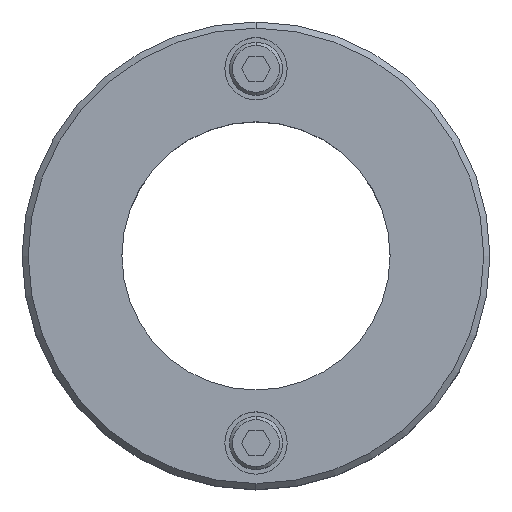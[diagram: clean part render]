
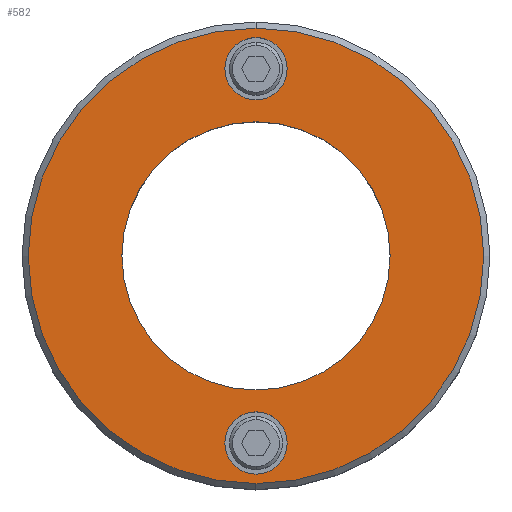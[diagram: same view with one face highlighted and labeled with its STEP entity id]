
A CAD part, top view. The second image highlights one B-rep face of the part: STEP entity #582.
In plain terms, the highlighted planar face has unit normal (0, 0, 1).
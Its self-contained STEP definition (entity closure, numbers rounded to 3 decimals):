
#105=VERTEX_POINT(' ',#106);
#106=CARTESIAN_POINT('',(0.,21.5,20.));
#107=VERTEX_POINT(' ',#108);
#108=CARTESIAN_POINT('',(0.,-21.5,20.));
#117=VERTEX_POINT(' ',#118);
#118=CARTESIAN_POINT('',(0.,35.,20.));
#119=VERTEX_POINT(' ',#120);
#120=CARTESIAN_POINT('',(0.,25.,20.));
#125=VERTEX_POINT(' ',#126);
#126=CARTESIAN_POINT('',(0.,-25.,20.));
#127=VERTEX_POINT(' ',#128);
#128=CARTESIAN_POINT('',(0.,-35.,20.));
#137=VERTEX_POINT(' ',#138);
#138=CARTESIAN_POINT('',(0.,-36.51,20.));
#139=VERTEX_POINT(' ',#140);
#140=CARTESIAN_POINT('',(0.,36.51,20.));
#199=CIRCLE('',#200,21.5);
#200=AXIS2_PLACEMENT_3D('',#201,#202,#203);
#201=CARTESIAN_POINT('',(0.,0.,20.));
#202=DIRECTION('',(0.,0.,-1.));
#203=DIRECTION('',(-1.,0.,0.));
#204=EDGE_CURVE(' ',#105,#107,#199,.T.);
#205=CIRCLE('',#206,21.5);
#206=AXIS2_PLACEMENT_3D('',#207,#208,#209);
#207=CARTESIAN_POINT('',(0.,0.,20.));
#208=DIRECTION('',(0.,0.,-1.));
#209=DIRECTION('',(1.,0.,0.));
#210=EDGE_CURVE(' ',#107,#105,#205,.T.);
#255=CIRCLE('',#256,5.);
#256=AXIS2_PLACEMENT_3D('',#257,#258,#259);
#257=CARTESIAN_POINT('',(0.,30.,20.));
#258=DIRECTION('',(0.,0.,1.));
#259=DIRECTION('',(1.,0.,0.));
#260=EDGE_CURVE(' ',#117,#119,#255,.T.);
#277=CIRCLE('',#278,5.);
#278=AXIS2_PLACEMENT_3D('',#279,#280,#281);
#279=CARTESIAN_POINT('',(0.,30.,20.));
#280=DIRECTION('',(0.,0.,1.));
#281=DIRECTION('',(-1.,0.,0.));
#282=EDGE_CURVE(' ',#119,#117,#277,.T.);
#289=CIRCLE('',#290,5.);
#290=AXIS2_PLACEMENT_3D('',#291,#292,#293);
#291=CARTESIAN_POINT('',(0.,-30.,20.));
#292=DIRECTION('',(0.,0.,1.));
#293=DIRECTION('',(1.,0.,0.));
#294=EDGE_CURVE(' ',#125,#127,#289,.T.);
#311=CIRCLE('',#312,5.);
#312=AXIS2_PLACEMENT_3D('',#313,#314,#315);
#313=CARTESIAN_POINT('',(0.,-30.,20.));
#314=DIRECTION('',(0.,0.,1.));
#315=DIRECTION('',(-1.,0.,0.));
#316=EDGE_CURVE(' ',#127,#125,#311,.T.);
#345=CIRCLE('',#346,36.51);
#346=AXIS2_PLACEMENT_3D('',#347,#348,#349);
#347=CARTESIAN_POINT('',(0.,0.,20.));
#348=DIRECTION('',(0.,0.,1.));
#349=DIRECTION('',(-1.,0.,0.));
#350=EDGE_CURVE(' ',#139,#137,#345,.F.);
#351=CIRCLE('',#352,36.51);
#352=AXIS2_PLACEMENT_3D('',#353,#354,#355);
#353=CARTESIAN_POINT('',(0.,0.,20.));
#354=DIRECTION('',(0.,0.,1.));
#355=DIRECTION('',(1.,0.,0.));
#356=EDGE_CURVE(' ',#137,#139,#351,.F.);
#561=ORIENTED_EDGE('',*,*,#350,.F.);
#562=ORIENTED_EDGE('',*,*,#356,.F.);
#563=EDGE_LOOP('',(#561,#562));
#564=FACE_OUTER_BOUND('',#563,.T.);
#565=ORIENTED_EDGE('',*,*,#316,.F.);
#566=ORIENTED_EDGE('',*,*,#294,.F.);
#567=EDGE_LOOP('',(#565,#566));
#568=FACE_BOUND('',#567,.T.);
#569=ORIENTED_EDGE('',*,*,#282,.F.);
#570=ORIENTED_EDGE('',*,*,#260,.F.);
#571=EDGE_LOOP('',(#569,#570));
#572=FACE_BOUND('',#571,.T.);
#573=ORIENTED_EDGE('',*,*,#204,.T.);
#574=ORIENTED_EDGE('',*,*,#210,.T.);
#575=EDGE_LOOP('',(#573,#574));
#576=FACE_BOUND('',#575,.T.);
#577=PLANE('',#578);
#578=AXIS2_PLACEMENT_3D('',#579,#580,#581);
#579=CARTESIAN_POINT('',(37.5,0.,20.));
#580=DIRECTION('',(0.,0.,1.));
#581=DIRECTION('',(0.,1.,0.));
#582=ADVANCED_FACE('',(#564,#568,#572,#576),#577,.T.);
